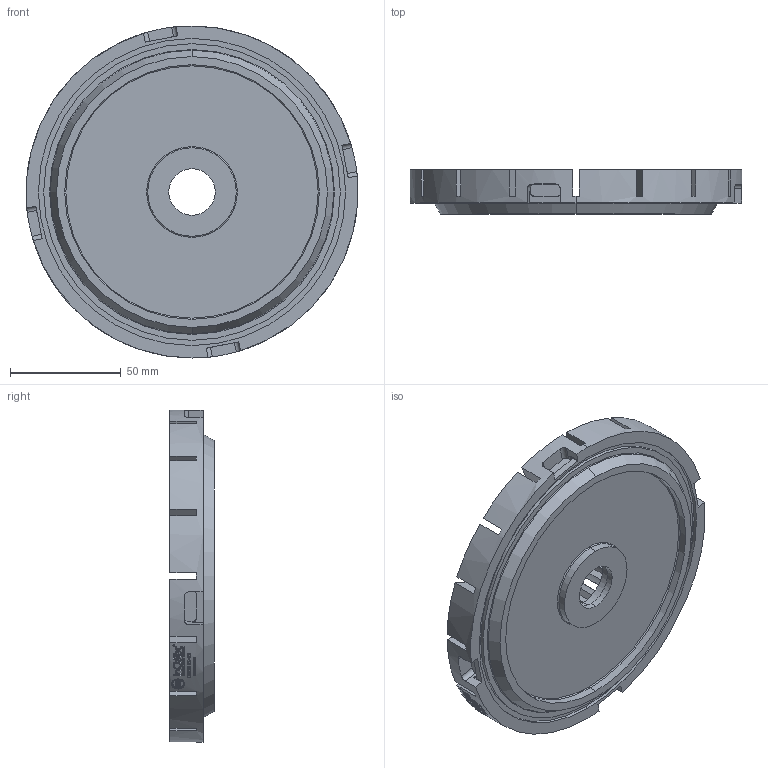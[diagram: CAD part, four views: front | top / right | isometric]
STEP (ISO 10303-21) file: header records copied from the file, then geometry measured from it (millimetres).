
FILE_DESCRIPTION (( 'STEP AP203' ), '1' );
FILE_NAME ('CR150 SS-15.STEP', '2016-06-16T06:17:37', ( '' ), ( '' ), 'SwSTEP 2.0', 'SolidWorks 2016', '' );
FILE_SCHEMA (( 'CONFIG_CONTROL_DESIGN' ));
Length unit declared in the file: millimetre
Products named in the file (1): CR150 SS-15
Bounding box: 150 x 20 x 150 mm (x, y, z)
Volume: 239558.1 mm3; surface area: 70826.1 mm2
Topology: 1 solids, 1 shells, 2037 faces, 5809 edges, 3871 vertices
Faces by surface type: plane 1640, cylinder 387, torus 8, cone 2
Entity records: 67007 total; most frequent: CARTESIAN_POINT 17435, ORIENTED_EDGE 11618, DIRECTION 8903, EDGE_CURVE 5809, VERTEX_POINT 3871, VECTOR 3655, LINE 3655, AXIS2_PLACEMENT_3D 2624
